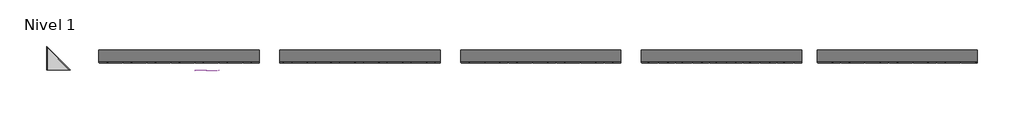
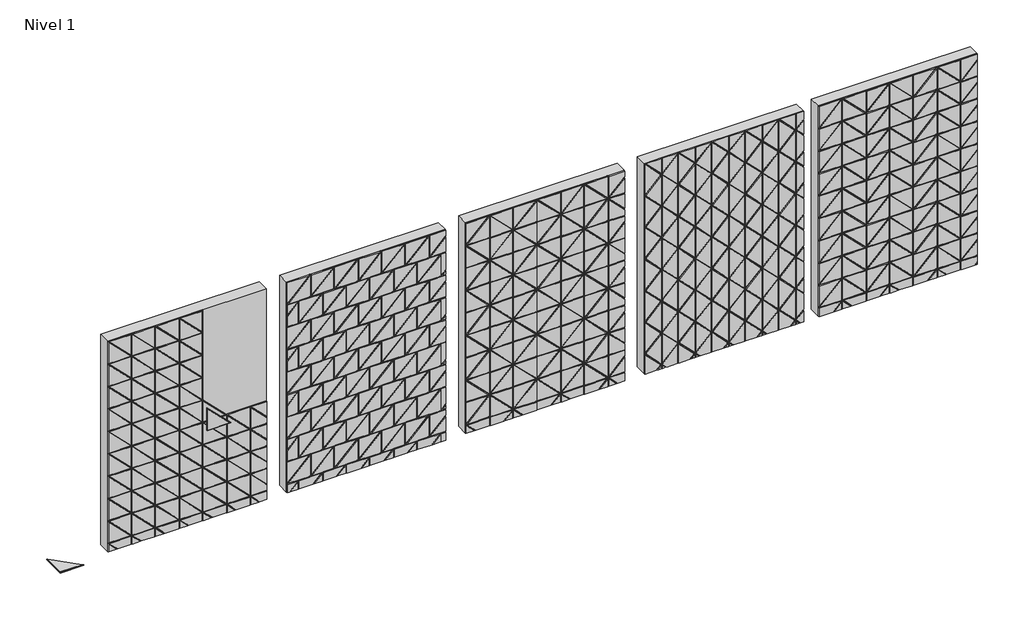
# One storey: 12 proxies.
"""IFC4 building model written with IfcOpenShell, lengths in millimetres."""

from ifc_helpers import new_model, si_unit, origin, place, context, project, spatial, transform, mapped, element, save
from components import generic_models_22719b0b, generic_models_7e0eabd6, generic_models_f0e3566a, generic_models_911a12b6, generic_models_b079b841, generic_models_d60f6803, generic_models_bfce4a0a, generic_models_32465c43, generic_models_03445e5c, generic_models_e9bd2cd0, generic_models_00a8797d, generic_models_0d8c589f, proxy_10_3dm_0bd30dda, proxy_11_3dm_48c2d1bd, proxy_12_3dm_ef83d142, proxy_8_3dm_0daf05c3, proxy_9_3dm_41c21e3c

model = new_model("IFC4")

# Units and contexts
model_context = context("Model", 3, world=origin())
ifc_project = project(units=[si_unit("LENGTHUNIT", "METRE", prefix="MILLI")], contexts=[model_context])

# Site, building, storey
site = spatial("IfcSite", under=ifc_project)
building = spatial("IfcBuilding", under=site)
storey = spatial("IfcBuildingStorey", under=building, Name="Nivel 1", Elevation=0.0)

# Proxies
placement = place(None, origin())
generic_models_shape = generic_models_22719b0b(model_context)
element("IfcBuildingElementProxy", 1, Name="Wall_Akebia 1.3dm", ObjectType="Wall_Akebia 1.3dm", at=placement, inside=storey, context=model_context, shape_type="MappedRepresentation", body=[
    mapped(generic_models_shape, transform((0.0, 0.0, 0.0), x_axis=(1.0, 0.0, 0.0), y_axis=(0.0, 1.0, 0.0), z_axis=(0.0, 0.0, 1.0))),
])
generic_models_2_shape = generic_models_7e0eabd6(model_context)
element("IfcBuildingElementProxy", 2, Name="Wall_Akebia 2.3dm", ObjectType="Wall_Akebia 2.3dm", at=placement, inside=storey, context=model_context, shape_type="MappedRepresentation", body=[
    mapped(generic_models_2_shape, transform((0.0, 0.0, 0.0), x_axis=(1.0, 0.0, 0.0), y_axis=(0.0, 1.0, 0.0), z_axis=(0.0, 0.0, 1.0))),
])
generic_models_3_shape = generic_models_f0e3566a(model_context)
generic_models_4_shape = generic_models_911a12b6(model_context)
element("IfcBuildingElementProxy", 3, Name="Wall_Akebia 3.3dm", ObjectType="Wall_Akebia 3.3dm", at=placement, inside=storey, context=model_context, shape_type="MappedRepresentation", body=[
    mapped(generic_models_3_shape, transform((0.0, 0.0, 0.0), x_axis=(1.0, 0.0, 0.0), y_axis=(0.0, 1.0, 0.0), z_axis=(0.0, 0.0, 1.0))),
    mapped(generic_models_4_shape, transform((0.0, 0.0, 0.0), x_axis=(1.0, 0.0, 0.0), y_axis=(0.0, 1.0, 0.0), z_axis=(0.0, 0.0, 1.0))),
])
generic_models_5_shape = generic_models_b079b841(model_context)
generic_models_6_shape = generic_models_d60f6803(model_context)
element("IfcBuildingElementProxy", 4, Name="Wall_Akebia 4.3dm", ObjectType="Wall_Akebia 4.3dm", at=placement, inside=storey, context=model_context, shape_type="MappedRepresentation", body=[
    mapped(generic_models_5_shape, transform((0.0, 0.0, 0.0), x_axis=(1.0, 0.0, 0.0), y_axis=(0.0, 1.0, 0.0), z_axis=(0.0, 0.0, 1.0))),
    mapped(generic_models_6_shape, transform((0.0, 0.0, 0.0), x_axis=(1.0, 0.0, 0.0), y_axis=(0.0, 1.0, 0.0), z_axis=(0.0, 0.0, 1.0))),
])
generic_models_7_shape = generic_models_bfce4a0a(model_context)
generic_models_8_shape = generic_models_32465c43(model_context)
element("IfcBuildingElementProxy", 5, Name="Wall_Akebia 5.3dm", ObjectType="Wall_Akebia 5.3dm", at=placement, inside=storey, context=model_context, shape_type="MappedRepresentation", body=[
    mapped(generic_models_7_shape, transform((0.0, 0.0, 0.0), x_axis=(1.0, 0.0, 0.0), y_axis=(0.0, 1.0, 0.0), z_axis=(0.0, 0.0, 1.0))),
    mapped(generic_models_8_shape, transform((0.0, 0.0, 0.0), x_axis=(1.0, 0.0, 0.0), y_axis=(0.0, 1.0, 0.0), z_axis=(0.0, 0.0, 1.0))),
])
generic_models_9_shape = generic_models_03445e5c(model_context)
generic_models_10_shape = generic_models_e9bd2cd0(model_context)
element("IfcBuildingElementProxy", 6, Name="Wall_Akebia 6.3dm", ObjectType="Wall_Akebia 6.3dm", at=placement, inside=storey, context=model_context, shape_type="MappedRepresentation", body=[
    mapped(generic_models_9_shape, transform((0.0, 0.0, 0.0), x_axis=(1.0, 0.0, 0.0), y_axis=(0.0, 1.0, 0.0), z_axis=(0.0, 0.0, 1.0))),
    mapped(generic_models_10_shape, transform((0.0, 0.0, 0.0), x_axis=(1.0, 0.0, 0.0), y_axis=(0.0, 1.0, 0.0), z_axis=(0.0, 0.0, 1.0))),
])
generic_models_11_shape = generic_models_00a8797d(model_context)
generic_models_12_shape = generic_models_0d8c589f(model_context)
element("IfcBuildingElementProxy", 7, Name="Wall_Akebia 7.3dm", ObjectType="Wall_Akebia 7.3dm", at=placement, inside=storey, context=model_context, shape_type="MappedRepresentation", body=[
    mapped(generic_models_11_shape, transform((0.0, 0.0, 0.0), x_axis=(1.0, 0.0, 0.0), y_axis=(0.0, 1.0, 0.0), z_axis=(0.0, 0.0, 1.0))),
    mapped(generic_models_12_shape, transform((0.0, 0.0, 0.0), x_axis=(1.0, 0.0, 0.0), y_axis=(0.0, 1.0, 0.0), z_axis=(0.0, 0.0, 1.0))),
])
proxy_10_3dm_shape = proxy_10_3dm_0bd30dda(model_context)
element("IfcBuildingElementProxy", 8, Name="10.3dm", ObjectType="10.3dm", at=placement, inside=storey, context=model_context, shape_type="MappedRepresentation", body=[
    mapped(proxy_10_3dm_shape, transform((0.0, 0.0, 0.0), x_axis=(1.0, 0.0, 0.0), y_axis=(0.0, 1.0, 0.0), z_axis=(0.0, 0.0, 1.0))),
])
proxy_11_3dm_shape = proxy_11_3dm_48c2d1bd(model_context)
element("IfcBuildingElementProxy", 9, Name="11.3dm", ObjectType="11.3dm", at=placement, inside=storey, context=model_context, shape_type="MappedRepresentation", body=[
    mapped(proxy_11_3dm_shape, transform((0.0, 0.0, 0.0), x_axis=(1.0, 0.0, 0.0), y_axis=(0.0, 1.0, 0.0), z_axis=(0.0, 0.0, 1.0))),
])
proxy_12_3dm_shape = proxy_12_3dm_ef83d142(model_context)
element("IfcBuildingElementProxy", 10, Name="12.3dm", ObjectType="12.3dm", at=placement, inside=storey, context=model_context, shape_type="MappedRepresentation", body=[
    mapped(proxy_12_3dm_shape, transform((0.0, 0.0, 0.0), x_axis=(1.0, 0.0, 0.0), y_axis=(0.0, 1.0, 0.0), z_axis=(0.0, 0.0, 1.0))),
])
proxy_8_3dm_shape = proxy_8_3dm_0daf05c3(model_context)
element("IfcBuildingElementProxy", 11, Name="8.3dm", ObjectType="8.3dm", at=placement, inside=storey, context=model_context, shape_type="MappedRepresentation", body=[
    mapped(proxy_8_3dm_shape, transform((0.0, 0.0, 0.0), x_axis=(1.0, 0.0, 0.0), y_axis=(0.0, 1.0, 0.0), z_axis=(0.0, 0.0, 1.0))),
])
proxy_9_3dm_shape = proxy_9_3dm_41c21e3c(model_context)
element("IfcBuildingElementProxy", 12, Name="9.3dm", ObjectType="9.3dm", at=placement, inside=storey, context=model_context, shape_type="MappedRepresentation", body=[
    mapped(proxy_9_3dm_shape, transform((0.0, 0.0, 0.0), x_axis=(1.0, 0.0, 0.0), y_axis=(0.0, 1.0, 0.0), z_axis=(0.0, 0.0, 1.0))),
])

save(model, "model.ifc")
